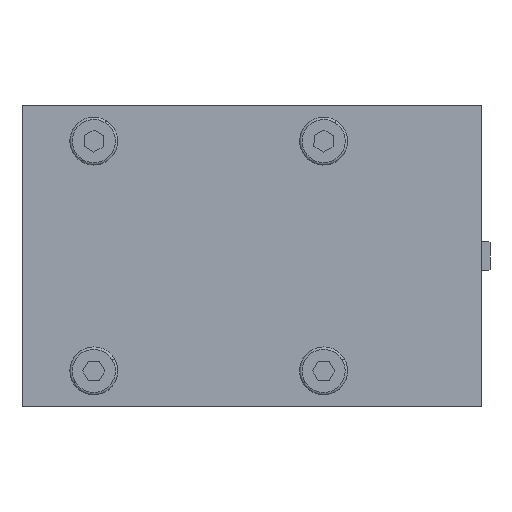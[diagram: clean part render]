
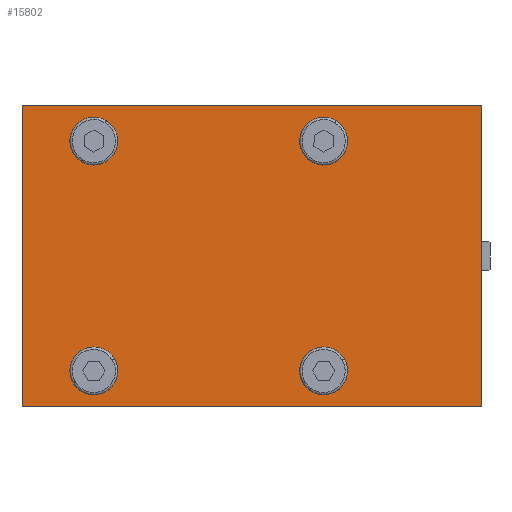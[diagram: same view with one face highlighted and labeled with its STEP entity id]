
A CAD part, front view. The second image highlights one B-rep face of the part: STEP entity #15802.
In plain terms, the highlighted planar face has unit normal (0, -1, 0).
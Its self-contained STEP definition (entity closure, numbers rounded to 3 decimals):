
#368 = ORIENTED_EDGE ( 'NONE', *, *, #6660, .F. ) ;
#452 = EDGE_CURVE ( 'NONE', #18984, #10571, #14752, .T. ) ;
#477 = DIRECTION ( 'NONE',  ( 0., 0., -1. ) ) ;
#1023 = DIRECTION ( 'NONE',  ( 0., 1., 0. ) ) ;
#1541 = DIRECTION ( 'NONE',  ( 0., 0., 1. ) ) ;
#1583 = ORIENTED_EDGE ( 'NONE', *, *, #7649, .T. ) ;
#1712 = EDGE_CURVE ( 'NONE', #22107, #11872, #9650, .T. ) ;
#1876 = CARTESIAN_POINT ( 'NONE',  ( 50., 0., -56. ) ) ;
#1896 = ORIENTED_EDGE ( 'NONE', *, *, #13631, .T. ) ;
#1910 = FACE_BOUND ( 'NONE', #2160, .T. ) ;
#2160 = EDGE_LOOP ( 'NONE', ( #1896, #16546 ) ) ;
#2253 = CARTESIAN_POINT ( 'NONE',  ( 50., 0., 40. ) ) ;
#2463 = CARTESIAN_POINT ( 'NONE',  ( 212.2, 0., 62.8 ) ) ;
#2481 = CARTESIAN_POINT ( 'NONE',  ( 20.01, 0., -62.8 ) ) ;
#2650 = AXIS2_PLACEMENT_3D ( 'NONE', #15738, #19416, #4104 ) ;
#3047 = VERTEX_POINT ( 'NONE', #12700 ) ;
#3221 = VECTOR ( 'NONE', #16086, 1000. ) ;
#3604 = CARTESIAN_POINT ( 'NONE',  ( 146., 0., 48. ) ) ;
#3816 = PLANE ( 'NONE',  #16364 ) ;
#4001 = EDGE_CURVE ( 'NONE', #6907, #13583, #20299, .T. ) ;
#4104 = DIRECTION ( 'NONE',  ( 0., 0., -1. ) ) ;
#4389 = EDGE_CURVE ( 'NONE', #18842, #10412, #14948, .T. ) ;
#4454 = ORIENTED_EDGE ( 'NONE', *, *, #4001, .T. ) ;
#4574 = DIRECTION ( 'NONE',  ( 0., -1., 0. ) ) ;
#4676 = VERTEX_POINT ( 'NONE', #13678 ) ;
#4695 = CIRCLE ( 'NONE', #20749, 8. ) ;
#4738 = CIRCLE ( 'NONE', #21513, 8. ) ;
#5092 = VECTOR ( 'NONE', #1541, 1000. ) ;
#5328 = VERTEX_POINT ( 'NONE', #11913 ) ;
#5809 = EDGE_LOOP ( 'NONE', ( #9374, #21255 ) ) ;
#6144 = VERTEX_POINT ( 'NONE', #11045 ) ;
#6362 = AXIS2_PLACEMENT_3D ( 'NONE', #3604, #7359, #12375 ) ;
#6407 = DIRECTION ( 'NONE',  ( 0., 1., 0. ) ) ;
#6430 = CARTESIAN_POINT ( 'NONE',  ( 146., 0., -56. ) ) ;
#6573 = ORIENTED_EDGE ( 'NONE', *, *, #1712, .T. ) ;
#6660 = EDGE_CURVE ( 'NONE', #5328, #4676, #7422, .T. ) ;
#6892 = VECTOR ( 'NONE', #12698, 1000. ) ;
#6907 = VERTEX_POINT ( 'NONE', #6430 ) ;
#7008 = AXIS2_PLACEMENT_3D ( 'NONE', #15968, #13089, #21555 ) ;
#7359 = DIRECTION ( 'NONE',  ( 0., 1., 0. ) ) ;
#7422 = LINE ( 'NONE', #12551, #3221 ) ;
#7645 = EDGE_LOOP ( 'NONE', ( #368, #18428, #6573, #18631 ) ) ;
#7649 = EDGE_CURVE ( 'NONE', #10412, #18842, #14145, .T. ) ;
#7855 = CARTESIAN_POINT ( 'NONE',  ( 212.2, 0., 62.8 ) ) ;
#8296 = CARTESIAN_POINT ( 'NONE',  ( 212.01, 0., -62.8 ) ) ;
#8579 = EDGE_CURVE ( 'NONE', #3047, #6144, #4738, .T. ) ;
#9230 = DIRECTION ( 'NONE',  ( 0., 0., -1. ) ) ;
#9295 = EDGE_CURVE ( 'NONE', #11872, #4676, #10926, .T. ) ;
#9374 = ORIENTED_EDGE ( 'NONE', *, *, #8579, .T. ) ;
#9650 = LINE ( 'NONE', #7855, #17366 ) ;
#10367 = FACE_BOUND ( 'NONE', #5809, .T. ) ;
#10412 = VERTEX_POINT ( 'NONE', #2253 ) ;
#10474 = FACE_BOUND ( 'NONE', #14592, .T. ) ;
#10571 = VERTEX_POINT ( 'NONE', #1876 ) ;
#10584 = FACE_OUTER_BOUND ( 'NONE', #7645, .T. ) ;
#10616 = AXIS2_PLACEMENT_3D ( 'NONE', #10778, #15854, #15964 ) ;
#10778 = CARTESIAN_POINT ( 'NONE',  ( 146., 0., -48. ) ) ;
#10926 = LINE ( 'NONE', #2481, #6892 ) ;
#11045 = CARTESIAN_POINT ( 'NONE',  ( 146., 0., 56. ) ) ;
#11180 = DIRECTION ( 'NONE',  ( 0., 0., -1. ) ) ;
#11519 = CARTESIAN_POINT ( 'NONE',  ( 50., 0., -48. ) ) ;
#11826 = CARTESIAN_POINT ( 'NONE',  ( 146., 0., -40. ) ) ;
#11872 = VERTEX_POINT ( 'NONE', #14867 ) ;
#11913 = CARTESIAN_POINT ( 'NONE',  ( 212.01, 0., -62.8 ) ) ;
#12033 = DIRECTION ( 'NONE',  ( 0., 1., 0. ) ) ;
#12375 = DIRECTION ( 'NONE',  ( 0., 0., -1. ) ) ;
#12551 = CARTESIAN_POINT ( 'NONE',  ( 212.2, 0., -62.8 ) ) ;
#12586 = EDGE_CURVE ( 'NONE', #5328, #22107, #13534, .T. ) ;
#12698 = DIRECTION ( 'NONE',  ( 0., 0., -1. ) ) ;
#12700 = CARTESIAN_POINT ( 'NONE',  ( 146., 0., 40. ) ) ;
#12809 = CIRCLE ( 'NONE', #18228, 8. ) ;
#12833 = ORIENTED_EDGE ( 'NONE', *, *, #4389, .T. ) ;
#12946 = CARTESIAN_POINT ( 'NONE',  ( 50., 0., 48. ) ) ;
#13057 = DIRECTION ( 'NONE',  ( -1., 0., 0. ) ) ;
#13089 = DIRECTION ( 'NONE',  ( 0., 1., 0. ) ) ;
#13118 = CARTESIAN_POINT ( 'NONE',  ( 50., 0., 56. ) ) ;
#13534 = LINE ( 'NONE', #8296, #5092 ) ;
#13583 = VERTEX_POINT ( 'NONE', #11826 ) ;
#13631 = EDGE_CURVE ( 'NONE', #10571, #18984, #4695, .T. ) ;
#13678 = CARTESIAN_POINT ( 'NONE',  ( 20.01, 0., -62.8 ) ) ;
#13898 = EDGE_CURVE ( 'NONE', #13583, #6907, #12809, .T. ) ;
#14145 = CIRCLE ( 'NONE', #7008, 8. ) ;
#14410 = CARTESIAN_POINT ( 'NONE',  ( 146., 0., 48. ) ) ;
#14592 = EDGE_LOOP ( 'NONE', ( #4454, #20462 ) ) ;
#14647 = EDGE_CURVE ( 'NONE', #6144, #3047, #16024, .T. ) ;
#14663 = CARTESIAN_POINT ( 'NONE',  ( 50., 0., -40. ) ) ;
#14752 = CIRCLE ( 'NONE', #2650, 8. ) ;
#14867 = CARTESIAN_POINT ( 'NONE',  ( 20.01, 0., 62.8 ) ) ;
#14948 = CIRCLE ( 'NONE', #16422, 8. ) ;
#15023 = DIRECTION ( 'NONE',  ( 0., 0., -1. ) ) ;
#15738 = CARTESIAN_POINT ( 'NONE',  ( 50., 0., -48. ) ) ;
#15785 = CARTESIAN_POINT ( 'NONE',  ( 146., 0., -48. ) ) ;
#15802 = ADVANCED_FACE ( 'NONE', ( #19124, #10367, #10474, #1910, #10584 ), #3816, .T. ) ;
#15854 = DIRECTION ( 'NONE',  ( 0., 1., 0. ) ) ;
#15964 = DIRECTION ( 'NONE',  ( 0., 0., -1. ) ) ;
#15968 = CARTESIAN_POINT ( 'NONE',  ( 50., 0., 48. ) ) ;
#16024 = CIRCLE ( 'NONE', #6362, 8. ) ;
#16086 = DIRECTION ( 'NONE',  ( -1., 0., 0. ) ) ;
#16364 = AXIS2_PLACEMENT_3D ( 'NONE', #2463, #4574, #9230 ) ;
#16422 = AXIS2_PLACEMENT_3D ( 'NONE', #12946, #20177, #11180 ) ;
#16546 = ORIENTED_EDGE ( 'NONE', *, *, #452, .T. ) ;
#17311 = CARTESIAN_POINT ( 'NONE',  ( 212.01, 0., 62.8 ) ) ;
#17366 = VECTOR ( 'NONE', #13057, 1000. ) ;
#18228 = AXIS2_PLACEMENT_3D ( 'NONE', #15785, #12033, #477 ) ;
#18428 = ORIENTED_EDGE ( 'NONE', *, *, #12586, .T. ) ;
#18631 = ORIENTED_EDGE ( 'NONE', *, *, #9295, .T. ) ;
#18646 = EDGE_LOOP ( 'NONE', ( #1583, #12833 ) ) ;
#18842 = VERTEX_POINT ( 'NONE', #13118 ) ;
#18984 = VERTEX_POINT ( 'NONE', #14663 ) ;
#19124 = FACE_BOUND ( 'NONE', #18646, .T. ) ;
#19416 = DIRECTION ( 'NONE',  ( 0., 1., 0. ) ) ;
#19692 = DIRECTION ( 'NONE',  ( 0., 0., -1. ) ) ;
#20177 = DIRECTION ( 'NONE',  ( 0., 1., 0. ) ) ;
#20299 = CIRCLE ( 'NONE', #10616, 8. ) ;
#20462 = ORIENTED_EDGE ( 'NONE', *, *, #13898, .T. ) ;
#20749 = AXIS2_PLACEMENT_3D ( 'NONE', #11519, #6407, #15023 ) ;
#21255 = ORIENTED_EDGE ( 'NONE', *, *, #14647, .T. ) ;
#21513 = AXIS2_PLACEMENT_3D ( 'NONE', #14410, #1023, #19692 ) ;
#21555 = DIRECTION ( 'NONE',  ( 0., 0., -1. ) ) ;
#22107 = VERTEX_POINT ( 'NONE', #17311 ) ;
